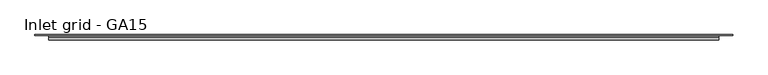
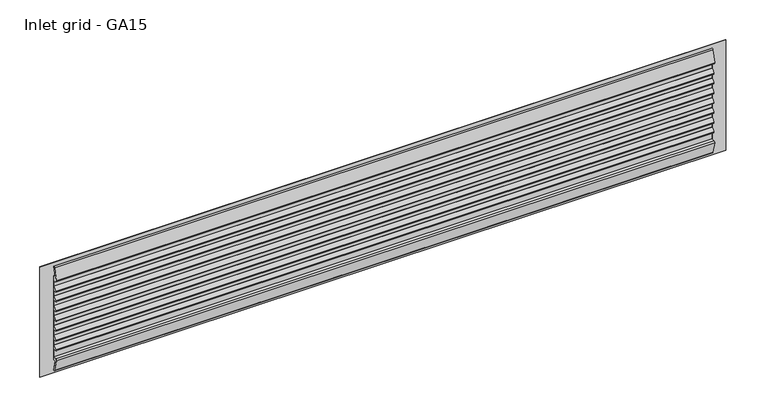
"""IFC4 building model written with IfcOpenShell, lengths in millimetres: proxy geometry, HVAC_Accessories_Emmeti_Grid-GA : Inlet grid - GA15."""

from ifc_helpers import new_model, si_unit, point, frame, frame_2d, origin, place, context, project, spatial, polyline, circle_curve, trimmed, segment, composite_curve, outline, extrude, source, transform, mapped, element, save


def inlet_grid_ga15_3eb42ee2(model_context):
    return source(origin(), model_context, "Body", "SweptSolid", [
        extrude(outline(composite_curve([segment(polyline([(-4.732363, 150.0), (0.0, 150.0), (0.0, 142.5976564), (-4.272988, 142.5976564)]), True, "CONTINUOUS"), segment(trimmed(circle_curve(frame_2d((-4.272988, 146.0976564)), 3.5), [point((-4.272988, 142.5976564))], [point((-7.772988, 146.0976564))], False, "CARTESIAN"), True, "CONTINUOUS"), segment(polyline([(-7.772988, 146.0976564), (-3.1350602, 163.4898854)]), True, "CONTINUOUS"), segment(trimmed(circle_curve(frame_2d((-1.9313102, 163.1688853)), 1.245815), [point((-3.1350602, 163.4898854))], [point((-1.0, 163.9963613))], False, "CARTESIAN"), True, "CONTINUOUS"), segment(polyline([(-1.0, 163.9963613), (-4.732363, 150.0)]), True, "CONTINUOUS")], self_intersect=False)), frame((-680.0, 0.0, 0.0), z_axis=(1.0, 0.0, 0.0), x_axis=(0.0, 1.0, 0.0)), (0.0, 0.0, 1.0), 960.0),
        extrude(outline(composite_curve([segment(polyline([(0.0, 127.5116343), (-6.0, 127.5116343)]), True, "CONTINUOUS"), segment(trimmed(circle_curve(frame_2d((-4.0, 127.5116343)), 2.0), [point((-6.0, 127.5116343))], [point((-5.6369786, 128.6606778))], False, "CARTESIAN"), True, "CONTINUOUS"), segment(trimmed(circle_curve(frame_2d((9.0945217, 118.5661561)), 17.8582326), [point((-5.6369786, 128.6606778))], [point((-1.0, 133.2976564))], False, "CARTESIAN"), True, "CONTINUOUS"), segment(polyline([(-1.0, 133.2976564), (0.0, 133.2976564), (0.0, 127.5116343)]), True, "CONTINUOUS")], self_intersect=False)), frame((-680.0, 0.0, 0.0), z_axis=(1.0, 0.0, 0.0), x_axis=(0.0, 1.0, 0.0)), (0.0, 0.0, 1.0), 960.0),
        extrude(outline(composite_curve([segment(polyline([(0.0, 112.4256122), (-6.0, 112.4256122)]), True, "CONTINUOUS"), segment(trimmed(circle_curve(frame_2d((-4.0, 112.4256122)), 2.0), [point((-6.0, 112.4256122))], [point((-5.6369786, 113.5746557))], False, "CARTESIAN"), True, "CONTINUOUS"), segment(trimmed(circle_curve(frame_2d((9.0945217, 103.480134)), 17.8582326), [point((-5.6369786, 113.5746557))], [point((-1.0, 118.2116343))], False, "CARTESIAN"), True, "CONTINUOUS"), segment(polyline([(-1.0, 118.2116343), (0.0, 118.2116343), (0.0, 112.4256122)]), True, "CONTINUOUS")], self_intersect=False)), frame((-680.0, 0.0, 0.0), z_axis=(1.0, 0.0, 0.0), x_axis=(0.0, 1.0, 0.0)), (0.0, 0.0, 1.0), 960.0),
        extrude(outline(composite_curve([segment(polyline([(0.0, 97.3395901), (-6.0, 97.3395901)]), True, "CONTINUOUS"), segment(trimmed(circle_curve(frame_2d((-4.0, 97.3395901)), 2.0), [point((-6.0, 97.3395901))], [point((-5.6369786, 98.4886335))], False, "CARTESIAN"), True, "CONTINUOUS"), segment(trimmed(circle_curve(frame_2d((9.0945217, 88.3941118)), 17.8582326), [point((-5.6369786, 98.4886335))], [point((-1.0, 103.1256122))], False, "CARTESIAN"), True, "CONTINUOUS"), segment(polyline([(-1.0, 103.1256122), (0.0, 103.1256122), (0.0, 97.3395901)]), True, "CONTINUOUS")], self_intersect=False)), frame((-680.0, 0.0, 0.0), z_axis=(1.0, 0.0, 0.0), x_axis=(0.0, 1.0, 0.0)), (0.0, 0.0, 1.0), 960.0),
        extrude(outline(composite_curve([segment(polyline([(0.0, 82.187813), (-6.0, 82.187813)]), True, "CONTINUOUS"), segment(trimmed(circle_curve(frame_2d((-4.0, 82.187813)), 2.0), [point((-6.0, 82.187813))], [point((-5.6369786, 83.3368565))], False, "CARTESIAN"), True, "CONTINUOUS"), segment(trimmed(circle_curve(frame_2d((9.0945217, 73.2423348)), 17.8582326), [point((-5.6369786, 83.3368565))], [point((-1.0, 87.9738351))], False, "CARTESIAN"), True, "CONTINUOUS"), segment(polyline([(-1.0, 87.9738351), (0.0, 87.9738351), (0.0, 82.187813)]), True, "CONTINUOUS")], self_intersect=False)), frame((-680.0, 0.0, 0.0), z_axis=(1.0, 0.0, 0.0), x_axis=(0.0, 1.0, 0.0)), (0.0, 0.0, 1.0), 960.0),
        extrude(outline(composite_curve([segment(polyline([(0.0, 67.1017909), (-6.0, 67.1017909)]), True, "CONTINUOUS"), segment(trimmed(circle_curve(frame_2d((-4.0, 67.1017909)), 2.0), [point((-6.0, 67.1017909))], [point((-5.6369786, 68.2508344))], False, "CARTESIAN"), True, "CONTINUOUS"), segment(trimmed(circle_curve(frame_2d((9.0945217, 58.1563127)), 17.8582326), [point((-5.6369786, 68.2508344))], [point((-1.0, 72.887813))], False, "CARTESIAN"), True, "CONTINUOUS"), segment(polyline([(-1.0, 72.887813), (0.0, 72.887813), (0.0, 67.1017909)]), True, "CONTINUOUS")], self_intersect=False)), frame((-680.0, 0.0, 0.0), z_axis=(1.0, 0.0, 0.0), x_axis=(0.0, 1.0, 0.0)), (0.0, 0.0, 1.0), 960.0),
        extrude(outline(composite_curve([segment(polyline([(0.0, 52.0157688), (-6.0, 52.0157688)]), True, "CONTINUOUS"), segment(trimmed(circle_curve(frame_2d((-4.0, 52.0157688)), 2.0), [point((-6.0, 52.0157688))], [point((-5.6369786, 53.1648122))], False, "CARTESIAN"), True, "CONTINUOUS"), segment(trimmed(circle_curve(frame_2d((9.0945217, 43.0702905)), 17.8582326), [point((-5.6369786, 53.1648122))], [point((-1.0, 57.8017909))], False, "CARTESIAN"), True, "CONTINUOUS"), segment(polyline([(-1.0, 57.8017909), (0.0, 57.8017909), (0.0, 52.0157688)]), True, "CONTINUOUS")], self_intersect=False)), frame((-680.0, 0.0, 0.0), z_axis=(1.0, 0.0, 0.0), x_axis=(0.0, 1.0, 0.0)), (0.0, 0.0, 1.0), 960.0),
        extrude(outline(composite_curve([segment(polyline([(0.0, 36.8639917), (-6.0, 36.8639917)]), True, "CONTINUOUS"), segment(trimmed(circle_curve(frame_2d((-4.0, 36.8639917)), 2.0), [point((-6.0, 36.8639917))], [point((-5.6369786, 38.0130352))], False, "CARTESIAN"), True, "CONTINUOUS"), segment(trimmed(circle_curve(frame_2d((9.0945217, 27.9185135)), 17.8582326), [point((-5.6369786, 38.0130352))], [point((-1.0, 42.6500138))], False, "CARTESIAN"), True, "CONTINUOUS"), segment(polyline([(-1.0, 42.6500138), (0.0, 42.6500138), (0.0, 36.8639917)]), True, "CONTINUOUS")], self_intersect=False)), frame((-680.0, 0.0, 0.0), z_axis=(1.0, 0.0, 0.0), x_axis=(0.0, 1.0, 0.0)), (0.0, 0.0, 1.0), 960.0),
        extrude(outline(composite_curve([segment(polyline([(0.0, 20.0), (-5.132363, 20.0), (-1.0, 4.5036387)]), True, "CONTINUOUS"), segment(trimmed(circle_curve(frame_2d((-1.9313102, 5.3311147)), 1.245815), [point((-1.0, 4.5036387))], [point((-3.1350602, 5.0101146))], False, "CARTESIAN"), True, "CONTINUOUS"), segment(polyline([(-3.1350602, 5.0101146), (-7.772988, 22.4023436)]), True, "CONTINUOUS"), segment(trimmed(circle_curve(frame_2d((-5.772988, 22.4023436)), 2.0), [point((-7.772988, 22.4023436))], [point((-5.772988, 24.4023436))], False, "CARTESIAN"), True, "CONTINUOUS"), segment(polyline([(-5.772988, 24.4023436), (0.0, 24.4023436), (0.0, 20.0)]), True, "CONTINUOUS")], self_intersect=False)), frame((-680.0, 0.0, 0.0), z_axis=(1.0, 0.0, 0.0), x_axis=(0.0, 1.0, 0.0)), (0.0, 0.0, 1.0), 960.0),
        extrude(outline(polyline([(170.0, 300.0), (170.0, -700.0), (0.0, -700.0), (0.0, 300.0), (170.0, 300.0)]), holes=[polyline([(150.0, 280.0), (20.0, 280.0), (20.0, -680.0), (150.0, -680.0), (150.0, 280.0)])]), frame((0.0, -1.0, 0.0), z_axis=(0.0, 1.0, 0.0), x_axis=(0.0, 0.0, 1.0)), (0.0, 0.0, 1.0), 1.0),
        extrude(outline(polyline([(280.0, 0.0), (280.0, -1.0), (-680.0, -1.0), (-680.0, 0.0), (280.0, 0.0)])), frame((0.0, 0.0, 24.4023436), z_axis=(0.0, 0.0, 1.0), x_axis=(1.0, 0.0, 0.0)), (0.0, 0.0, 1.0), 125.5976564),
    ])


if __name__ == "__main__":
    model = new_model("IFC4")
    model_context = context("Model", 3, world=origin())
    ifc_project = project(units=[si_unit("LENGTHUNIT", "METRE", prefix="MILLI")], contexts=[model_context])
    site = spatial("IfcSite", under=ifc_project)
    building = spatial("IfcBuilding", under=site)
    placement = place(None, origin())
    inlet_grid_ga15_shape = inlet_grid_ga15_3eb42ee2(model_context)
    element("IfcBuildingElementProxy", 1, Name="HVAC_Accessories_Emmeti_Grid-GA : Inlet grid - GA15", ObjectType="HVAC_Accessories_Emmeti_Grid-GA : Inlet grid - GA15", at=placement, inside=building, context=model_context, shape_type="MappedRepresentation", body=[
        mapped(inlet_grid_ga15_shape, transform((0.0, 0.0, 0.0), x_axis=(1.0, 0.0, 0.0), y_axis=(0.0, 1.0, 0.0), z_axis=(0.0, 0.0, 1.0))),
    ])
    save(model, "model.ifc")
